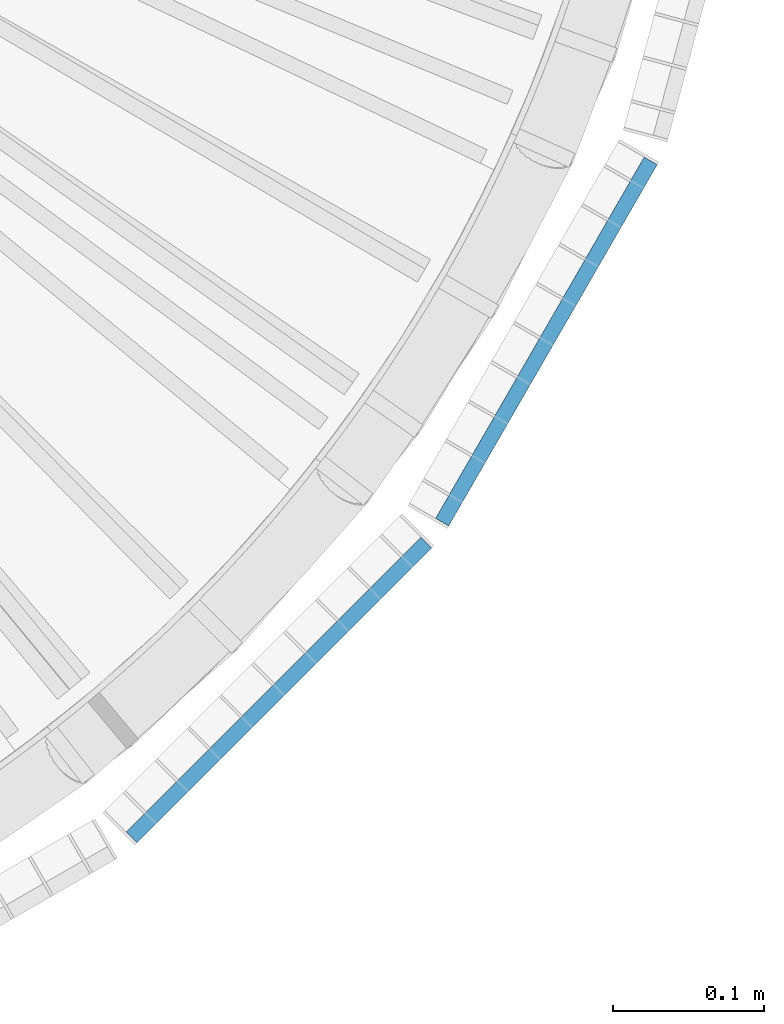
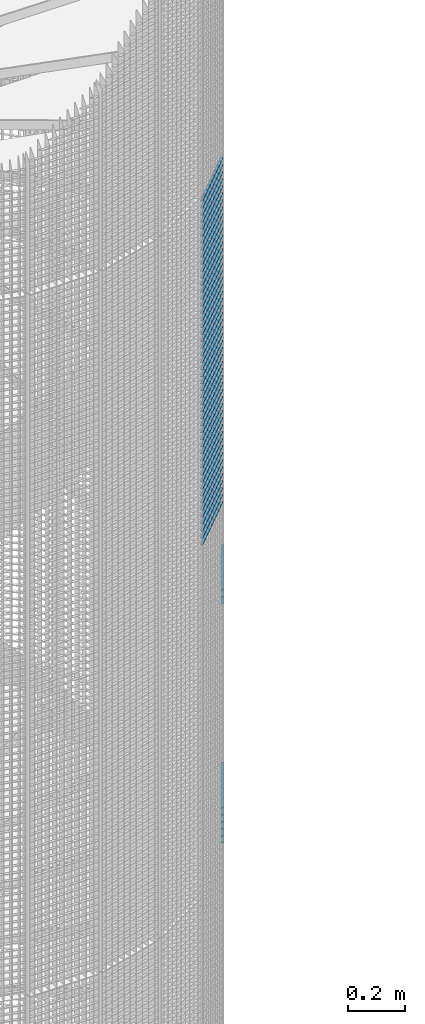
# One storey, part 260 of 1183: 59 beams, 2 elements without a shape of their own.
"""IFC2X3 building model written with IfcOpenShell, lengths in millimetres."""

import ifcopenshell
import ifcopenshell.guid

model = None  # the IFC model being written
_history = None  # IfcOwnerHistory: only IFC2X3 demands one
_inside = {}  # id of a spatial element -> (the spatial element, [elements in it])
_under = {}  # id of a project, library or spatial element -> (it, [spatial elements below it])
_declared = {}  # id of a project -> (the project, [libraries it declares])
_typed = {}  # id of a type object -> (the type object, [elements of that type])
_made_of = {}  # id of a material, layer set ... -> (it, [elements and type objects made of it])


def new_model(schema):
    """Start an empty IFC model of exactly this schema.

    Asked for "IFC4X3", IfcOpenShell would pick the latest addendum, in which some entities
    have other attributes; the version numbers below select the first issue.
    IFC2X3 requires an IfcOwnerHistory on every rooted entity: one is made here for all.
    """
    global model, _history
    if schema == "IFC4X3":
        model = ifcopenshell.file(schema_version=(4, 3, 0, 0))
    else:
        model = ifcopenshell.file(schema=schema)
    _inside.clear()
    _under.clear()
    _declared.clear()
    _typed.clear()
    _made_of.clear()
    _history = None
    if model.schema == "IFC2X3":
        org = make("IfcOrganization", Name="unknown")
        user = make(
            "IfcPersonAndOrganization",
            ThePerson=make("IfcPerson", FamilyName="unknown"),
            TheOrganization=org,
        )
        app = make(
            "IfcApplication",
            ApplicationDeveloper=org,
            Version="unknown",
            ApplicationFullName="unknown",
            ApplicationIdentifier="unknown",
        )
        _history = make(
            "IfcOwnerHistory",
            OwningUser=user,
            OwningApplication=app,
            ChangeAction="ADDED",
            CreationDate=0,
        )
    return model


def make(cls, **values):
    """One entity of the class cls with the attributes given. An attribute that is None is left unset."""
    return model.create_entity(
        cls, **{name: value for name, value in values.items() if value is not None}
    )


def rooted(cls, **values):
    """An entity with a GlobalId (a new one), such as an element, a storey or a relation."""
    return make(cls, GlobalId=ifcopenshell.guid.new(), OwnerHistory=_history, **values)


def si_unit(unit_type, name, prefix=None):
    """IfcSIUnit, for example si_unit("LENGTHUNIT", "METRE", prefix="MILLI")."""
    return make("IfcSIUnit", UnitType=unit_type, Prefix=prefix, Name=name)


def assignment(units):
    """IfcUnitAssignment: the units of a project."""
    return None if units is None else make("IfcUnitAssignment", Units=units)


def point(xyz):
    """IfcCartesianPoint."""
    return None if xyz is None else make("IfcCartesianPoint", Coordinates=xyz)


def direction(xyz):
    """IfcDirection."""
    return None if xyz is None else make("IfcDirection", DirectionRatios=xyz)


def frame(location, z_axis=None, x_axis=None):
    """IfcAxis2Placement3D, a coordinate frame: its origin and axes. An axis left out is left unset."""
    return make(
        "IfcAxis2Placement3D",
        Location=point(location),
        Axis=direction(z_axis),
        RefDirection=direction(x_axis),
    )


def frame_2d(location, x_axis=None):
    """IfcAxis2Placement2D, a coordinate frame in the plane: its origin and x axis."""
    return make(
        "IfcAxis2Placement2D", Location=point(location), RefDirection=direction(x_axis)
    )


def origin_with_axes():
    """The frame at (0, 0, 0) with the z axis (0, 0, 1) and the x axis (1, 0, 0) written out."""
    return frame((0.0, 0.0, 0.0), z_axis=(0.0, 0.0, 1.0), x_axis=(1.0, 0.0, 0.0))


def origin_2d_with_axis():
    """The frame at (0, 0) in the plane with the x axis (1, 0) written out."""
    return frame_2d((0.0, 0.0), x_axis=(1.0, 0.0))


def place(relative_to, where):
    """IfcLocalPlacement: puts the frame where relative to a parent placement (None: the world)."""
    return make(
        "IfcLocalPlacement", PlacementRelTo=relative_to, RelativePlacement=where
    )


def context(
    kind, dimensions, precision=None, world=None, true_north=None, identifier=None
):
    """IfcGeometricRepresentationContext, for example the 3D "Model" context."""
    return make(
        "IfcGeometricRepresentationContext",
        ContextIdentifier=identifier,
        ContextType=kind,
        CoordinateSpaceDimension=dimensions,
        Precision=precision,
        WorldCoordinateSystem=world,
        TrueNorth=true_north,
    )


def subcontext(parent, identifier, kind, view, scale=None):
    """IfcGeometricRepresentationSubContext, for example "Body" below "Model"."""
    return make(
        "IfcGeometricRepresentationSubContext",
        ContextIdentifier=identifier,
        ContextType=kind,
        ParentContext=parent,
        TargetScale=scale,
        TargetView=view,
    )


def project(units=None, contexts=None):
    """IfcProject with its units and contexts."""
    return rooted(
        "IfcProject",
        Name="project",
        RepresentationContexts=contexts,
        UnitsInContext=assignment(units),
    )


def spatial(cls, under=None, at=None, **own):
    """A site, building, storey or space (cls), placed at a placement, below another one or the project."""
    s = rooted(cls, ObjectPlacement=at, **own)
    if under is not None:
        _under.setdefault(under.id(), (under, []))[1].append(s)
    return s


def profile(cls, at=None, kind="AREA", **sizes):
    """A parametric profile (cls). Its sizes go by their IFC names, for example OverallWidth=200.0."""
    return make(cls, ProfileType=kind, Position=at, **sizes)


def rectangle(**sizes):
    """IfcRectangleProfileDef."""
    return profile("IfcRectangleProfileDef", **sizes)


def extrude(swept, where, along, depth):
    """IfcExtrudedAreaSolid: the profile swept, set in the frame where, extruded along a direction by depth."""
    return make(
        "IfcExtrudedAreaSolid",
        SweptArea=swept,
        Position=where,
        ExtrudedDirection=direction(along),
        Depth=depth,
    )


def shape(context_of_items, identifier, shape_type, items):
    """IfcShapeRepresentation: the items that make up one representation, for example the "Body"."""
    return make(
        "IfcShapeRepresentation",
        ContextOfItems=context_of_items,
        RepresentationIdentifier=identifier,
        RepresentationType=shape_type,
        Items=items,
    )


def material(Name=None, Category=None):
    """IfcMaterial."""
    return make("IfcMaterial", Name=Name, Category=Category)


def made_of(thing, what):
    """Note that an element or type object is made of a material, layer set ...; save() writes the relation."""
    if what is not None:
        _made_of.setdefault(what.id(), (what, []))[1].append(thing)
    return thing


def type_object(cls, material=None, **own):
    """A type object (cls), such as IfcWallType, which elements share."""
    return made_of(rooted(cls, **own), material)


def element(
    cls,
    number,
    at=None,
    inside=None,
    cuts=None,
    type_object=None,
    material=None,
    context=None,
    identifier="Body",
    shape_type=None,
    held_by="IfcProductDefinitionShape",
    body=None,
    shapes=None,
    **own,
):
    """One element of the class cls, such as IfcWall. Its Tag is "e" and its number.

    at: its placement. inside: the storey or other place that contains it. cuts: it is an
    opening in that element (IfcRelVoidsElement). A single representation is given by context,
    identifier, shape_type and body (its items); several are given by shapes. held_by: the class
    of the entity that holds the representations. save() writes the other relations.
    """
    e = rooted(cls, Tag="e%d" % number, ObjectPlacement=at, **own)
    if body is not None:
        shapes = [shape(context, identifier, shape_type, body)]
    if shapes is not None:
        e.Representation = make(held_by, Representations=shapes)
    if inside is not None:
        _inside.setdefault(inside.id(), (inside, []))[1].append(e)
    if cuts is not None:
        rooted(
            "IfcRelVoidsElement", RelatingBuildingElement=cuts, RelatedOpeningElement=e
        )
    if type_object is not None:
        _typed.setdefault(type_object.id(), (type_object, []))[1].append(e)
    return made_of(e, material)


def aggregate(whole, parts):
    """IfcRelAggregates: a whole, such as a stair, and the parts it consists of."""
    return rooted("IfcRelAggregates", RelatingObject=whole, RelatedObjects=parts)


def save(model, path):
    """Write the relations noted so far, then the file.

    IfcRelAggregates (storeys below a building ...), IfcRelContainedInSpatialStructure (elements
    in a storey), IfcRelDefinesByType, IfcRelAssociatesMaterial and IfcRelDeclares: one each for
    every whole, place, type object, material and project.
    """
    for whole, parts in _under.values():
        aggregate(whole, parts)
    for where, things in _inside.values():
        rooted(
            "IfcRelContainedInSpatialStructure",
            RelatedElements=things,
            RelatingStructure=where,
        )
    for kind, things in _typed.values():
        rooted("IfcRelDefinesByType", RelatedObjects=things, RelatingType=kind)
    for what, things in _made_of.values():
        rooted("IfcRelAssociatesMaterial", RelatedObjects=things, RelatingMaterial=what)
    for by, libraries in _declared.values():
        rooted("IfcRelDeclares", RelatingContext=by, RelatedDefinitions=libraries)
    model.write(path)


model = new_model("IFC2X3")

# Units and contexts
model_context = context("Model", 3, precision=1e-05, world=origin_with_axes())
body_context = subcontext(model_context, "Body", "Model", "MODEL_VIEW")
ifc_project = project(units=[si_unit("LENGTHUNIT", "METRE", prefix="MILLI"), si_unit("AREAUNIT", "SQUARE_METRE"), si_unit("VOLUMEUNIT", "CUBIC_METRE"), si_unit("MASSUNIT", "GRAM", prefix="KILO"), si_unit("TIMEUNIT", "SECOND"), si_unit("PLANEANGLEUNIT", "RADIAN"), si_unit("SOLIDANGLEUNIT", "STERADIAN"), si_unit("THERMODYNAMICTEMPERATUREUNIT", "DEGREE_CELSIUS"), si_unit("LUMINOUSINTENSITYUNIT", "LUMEN")], contexts=[model_context])

# Site, building, storey
site_placement = place(None, origin_with_axes())
site = spatial("IfcSite", under=ifc_project, at=site_placement, Name="Undefined", CompositionType="ELEMENT")
building_placement = place(site_placement, origin_with_axes())
building = spatial("IfcBuilding", under=site, at=building_placement, Name="Undefined", CompositionType="ELEMENT")
storey_placement = place(building_placement, origin_with_axes())
storey = spatial("IfcBuildingStorey", under=building, at=storey_placement, Name="Undefined", CompositionType="ELEMENT", Elevation=0.0)

# Assembly, beams
assembly_1_placement = place(storey_placement, origin_with_axes())
assembly_1 = element("IfcElementAssembly", 1, at=assembly_1_placement, inside=storey, Name="BORDURE", AssemblyPlace="NOTDEFINED", PredefinedType="NOTDEFINED")
ifc_material = material(Name="STEEL/S235JR")
beam_type = type_object("IfcBeamType", Name="PL2*10", PredefinedType="NOTDEFINED")
beam_1_placement = place(assembly_1_placement, frame((895.30396491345, -676.24804453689, 3180.0), z_axis=(0.866025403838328, -0.49999999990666, 0.0), x_axis=(0.49999999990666, 0.866025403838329, 0.0)))
beam_1 = element("IfcBeam", 2, at=beam_1_placement, type_object=beam_type, material=ifc_material, Name="ENTRETOISE", context=body_context, shape_type="SweptSolid", body=[
    extrude(rectangle(XDim=2.0, YDim=10.0, at=origin_2d_with_axis()), frame((275.999999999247, 9.09494701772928e-13, 1.53210777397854e-14), z_axis=(-1.0, 0.0, 0.0), x_axis=(0.0, -1.0, 0.0)), (0.0, 0.0, 1.0), 276.0),
])
beam_2_placement = place(assembly_1_placement, frame((895.303964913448, -676.248044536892, 4050.0), z_axis=(0.866025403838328, -0.49999999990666, 0.0), x_axis=(0.49999999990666, 0.866025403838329, 0.0)))
beam_2 = element("IfcBeam", 3, at=beam_2_placement, type_object=beam_type, material=ifc_material, Name="ENTRETOISE", context=body_context, shape_type="SweptSolid", body=[
    extrude(rectangle(XDim=2.0, YDim=10.0, at=origin_2d_with_axis()), frame((275.999999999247, 9.09494701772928e-13, 1.53210777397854e-14), z_axis=(-1.0, 0.0, 0.0), x_axis=(0.0, -1.0, 0.0)), (0.0, 0.0, 1.0), 276.0),
])
beam_3_placement = place(assembly_1_placement, frame((895.30396491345, -676.24804453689, 3150.0), z_axis=(0.866025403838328, -0.49999999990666, 0.0), x_axis=(0.49999999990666, 0.866025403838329, 0.0)))
beam_3 = element("IfcBeam", 4, at=beam_3_placement, type_object=beam_type, material=ifc_material, Name="ENTRETOISE", context=body_context, shape_type="SweptSolid", body=[
    extrude(rectangle(XDim=2.0, YDim=10.0, at=origin_2d_with_axis()), frame((275.999999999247, 9.09494701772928e-13, 1.53210777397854e-14), z_axis=(-1.0, 0.0, 0.0), x_axis=(0.0, -1.0, 0.0)), (0.0, 0.0, 1.0), 276.0),
])
beam_4_placement = place(assembly_1_placement, frame((895.30396491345, -676.24804453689, 3120.0), z_axis=(0.866025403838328, -0.49999999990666, 0.0), x_axis=(0.49999999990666, 0.866025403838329, 0.0)))
beam_4 = element("IfcBeam", 5, at=beam_4_placement, type_object=beam_type, material=ifc_material, Name="ENTRETOISE", context=body_context, shape_type="SweptSolid", body=[
    extrude(rectangle(XDim=2.0, YDim=10.0, at=origin_2d_with_axis()), frame((275.999999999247, 9.09494701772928e-13, 1.53210777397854e-14), z_axis=(-1.0, 0.0, 0.0), x_axis=(0.0, -1.0, 0.0)), (0.0, 0.0, 1.0), 276.0),
])
beam_5_placement = place(assembly_1_placement, frame((895.303964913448, -676.248044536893, 4080.0), z_axis=(0.866025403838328, -0.49999999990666, 0.0), x_axis=(0.49999999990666, 0.866025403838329, 0.0)))
beam_5 = element("IfcBeam", 6, at=beam_5_placement, type_object=beam_type, material=ifc_material, Name="ENTRETOISE", context=body_context, shape_type="SweptSolid", body=[
    extrude(rectangle(XDim=2.0, YDim=10.0, at=origin_2d_with_axis()), frame((275.999999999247, 9.09494701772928e-13, 1.53210777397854e-14), z_axis=(-1.0, 0.0, 0.0), x_axis=(0.0, -1.0, 0.0)), (0.0, 0.0, 1.0), 276.0),
])
beam_6_placement = place(assembly_1_placement, frame((895.30396491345, -676.248044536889, 3090.0), z_axis=(0.866025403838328, -0.49999999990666, 0.0), x_axis=(0.49999999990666, 0.866025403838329, 0.0)))
beam_6 = element("IfcBeam", 7, at=beam_6_placement, type_object=beam_type, material=ifc_material, Name="ENTRETOISE", context=body_context, shape_type="SweptSolid", body=[
    extrude(rectangle(XDim=2.0, YDim=10.0, at=origin_2d_with_axis()), frame((275.999999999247, 9.09494701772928e-13, 1.53210777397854e-14), z_axis=(-1.0, 0.0, 0.0), x_axis=(0.0, -1.0, 0.0)), (0.0, 0.0, 1.0), 276.0),
])
beam_7_placement = place(assembly_1_placement, frame((895.30396491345, -676.248044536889, 3060.0), z_axis=(0.866025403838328, -0.49999999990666, 0.0), x_axis=(0.49999999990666, 0.866025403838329, 0.0)))
beam_7 = element("IfcBeam", 8, at=beam_7_placement, type_object=beam_type, material=ifc_material, Name="ENTRETOISE", context=body_context, shape_type="SweptSolid", body=[
    extrude(rectangle(XDim=2.0, YDim=10.0, at=origin_2d_with_axis()), frame((275.999999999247, 9.09494701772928e-13, 1.53210777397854e-14), z_axis=(-1.0, 0.0, 0.0), x_axis=(0.0, -1.0, 0.0)), (0.0, 0.0, 1.0), 276.0),
])
beam_8_placement = place(assembly_1_placement, frame((895.303964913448, -676.248044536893, 4110.0), z_axis=(0.866025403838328, -0.49999999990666, 0.0), x_axis=(0.49999999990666, 0.866025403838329, 0.0)))
beam_8 = element("IfcBeam", 9, at=beam_8_placement, type_object=beam_type, material=ifc_material, Name="ENTRETOISE", context=body_context, shape_type="SweptSolid", body=[
    extrude(rectangle(XDim=2.0, YDim=10.0, at=origin_2d_with_axis()), frame((275.999999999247, 9.09494701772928e-13, 1.53210777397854e-14), z_axis=(-1.0, 0.0, 0.0), x_axis=(0.0, -1.0, 0.0)), (0.0, 0.0, 1.0), 276.0),
])
beam_9_placement = place(assembly_1_placement, frame((895.30396491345, -676.248044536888, 3030.0), z_axis=(0.866025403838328, -0.49999999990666, 0.0), x_axis=(0.49999999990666, 0.866025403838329, 0.0)))
beam_9 = element("IfcBeam", 10, at=beam_9_placement, type_object=beam_type, material=ifc_material, Name="ENTRETOISE", context=body_context, shape_type="SweptSolid", body=[
    extrude(rectangle(XDim=2.0, YDim=10.0, at=origin_2d_with_axis()), frame((275.999999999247, 9.09494701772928e-13, 1.53210777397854e-14), z_axis=(-1.0, 0.0, 0.0), x_axis=(0.0, -1.0, 0.0)), (0.0, 0.0, 1.0), 276.0),
])
aggregate(assembly_1, [beam_1, beam_2, beam_3, beam_4, beam_5, beam_6, beam_7, beam_8, beam_9])

assembly_2_placement = place(storey_placement, origin_with_axes())
assembly_2 = element("IfcElementAssembly", 11, at=assembly_2_placement, inside=storey, Name="BORDURE", AssemblyPlace="NOTDEFINED", PredefinedType="NOTDEFINED")
beam_10_placement = place(assembly_2_placement, frame((689.771348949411, -884.927168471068, 5970.0), z_axis=(0.707106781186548, -0.707106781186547, 0.0), x_axis=(0.707106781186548, 0.707106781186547, 0.0)))
beam_10 = element("IfcBeam", 12, at=beam_10_placement, type_object=beam_type, material=ifc_material, Name="ENTRETOISE", context=body_context, shape_type="SweptSolid", body=[
    extrude(rectangle(XDim=2.0, YDim=10.0, at=origin_2d_with_axis()), frame((275.999999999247, 9.09494701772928e-13, 1.53210777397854e-14), z_axis=(-1.0, 0.0, 0.0), x_axis=(0.0, -1.0, 0.0)), (0.0, 0.0, 1.0), 276.0),
])
beam_11_placement = place(assembly_2_placement, frame((689.771348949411, -884.927168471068, 5940.0), z_axis=(0.707106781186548, -0.707106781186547, 0.0), x_axis=(0.707106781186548, 0.707106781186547, 0.0)))
beam_11 = element("IfcBeam", 13, at=beam_11_placement, type_object=beam_type, material=ifc_material, Name="ENTRETOISE", context=body_context, shape_type="SweptSolid", body=[
    extrude(rectangle(XDim=2.0, YDim=10.0, at=origin_2d_with_axis()), frame((275.999999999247, 9.09494701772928e-13, 1.53210777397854e-14), z_axis=(-1.0, 0.0, 0.0), x_axis=(0.0, -1.0, 0.0)), (0.0, 0.0, 1.0), 276.0),
])
beam_12_placement = place(assembly_2_placement, frame((689.771348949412, -884.927168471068, 5910.0), z_axis=(0.707106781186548, -0.707106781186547, 0.0), x_axis=(0.707106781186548, 0.707106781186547, 0.0)))
beam_12 = element("IfcBeam", 14, at=beam_12_placement, type_object=beam_type, material=ifc_material, Name="ENTRETOISE", context=body_context, shape_type="SweptSolid", body=[
    extrude(rectangle(XDim=2.0, YDim=10.0, at=origin_2d_with_axis()), frame((275.999999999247, 9.09494701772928e-13, 1.53210777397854e-14), z_axis=(-1.0, 0.0, 0.0), x_axis=(0.0, -1.0, 0.0)), (0.0, 0.0, 1.0), 276.0),
])
beam_13_placement = place(assembly_2_placement, frame((689.771348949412, -884.927168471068, 5880.0), z_axis=(0.707106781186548, -0.707106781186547, 0.0), x_axis=(0.707106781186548, 0.707106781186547, 0.0)))
beam_13 = element("IfcBeam", 15, at=beam_13_placement, type_object=beam_type, material=ifc_material, Name="ENTRETOISE", context=body_context, shape_type="SweptSolid", body=[
    extrude(rectangle(XDim=2.0, YDim=10.0, at=origin_2d_with_axis()), frame((275.999999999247, 9.09494701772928e-13, 1.53210777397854e-14), z_axis=(-1.0, 0.0, 0.0), x_axis=(0.0, -1.0, 0.0)), (0.0, 0.0, 1.0), 276.0),
])
beam_14_placement = place(assembly_2_placement, frame((689.771348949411, -884.927168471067, 5850.0), z_axis=(0.707106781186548, -0.707106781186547, 0.0), x_axis=(0.707106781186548, 0.707106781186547, 0.0)))
beam_14 = element("IfcBeam", 16, at=beam_14_placement, type_object=beam_type, material=ifc_material, Name="ENTRETOISE", context=body_context, shape_type="SweptSolid", body=[
    extrude(rectangle(XDim=2.0, YDim=10.0, at=origin_2d_with_axis()), frame((275.999999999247, 9.09494701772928e-13, 1.53210777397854e-14), z_axis=(-1.0, 0.0, 0.0), x_axis=(0.0, -1.0, 0.0)), (0.0, 0.0, 1.0), 276.0),
])
beam_15_placement = place(assembly_2_placement, frame((689.771348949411, -884.927168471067, 5820.0), z_axis=(0.707106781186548, -0.707106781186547, 0.0), x_axis=(0.707106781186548, 0.707106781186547, 0.0)))
beam_15 = element("IfcBeam", 17, at=beam_15_placement, type_object=beam_type, material=ifc_material, Name="ENTRETOISE", context=body_context, shape_type="SweptSolid", body=[
    extrude(rectangle(XDim=2.0, YDim=10.0, at=origin_2d_with_axis()), frame((275.999999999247, 9.09494701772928e-13, 1.53210777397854e-14), z_axis=(-1.0, 0.0, 0.0), x_axis=(0.0, -1.0, 0.0)), (0.0, 0.0, 1.0), 276.0),
])
beam_16_placement = place(assembly_2_placement, frame((689.771348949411, -884.927168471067, 5790.0), z_axis=(0.707106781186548, -0.707106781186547, 0.0), x_axis=(0.707106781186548, 0.707106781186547, 0.0)))
beam_16 = element("IfcBeam", 18, at=beam_16_placement, type_object=beam_type, material=ifc_material, Name="ENTRETOISE", context=body_context, shape_type="SweptSolid", body=[
    extrude(rectangle(XDim=2.0, YDim=10.0, at=origin_2d_with_axis()), frame((275.999999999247, 9.09494701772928e-13, 1.53210777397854e-14), z_axis=(-1.0, 0.0, 0.0), x_axis=(0.0, -1.0, 0.0)), (0.0, 0.0, 1.0), 276.0),
])
beam_17_placement = place(assembly_2_placement, frame((689.771348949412, -884.927168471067, 5760.0), z_axis=(0.707106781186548, -0.707106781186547, 0.0), x_axis=(0.707106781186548, 0.707106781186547, 0.0)))
beam_17 = element("IfcBeam", 19, at=beam_17_placement, type_object=beam_type, material=ifc_material, Name="ENTRETOISE", context=body_context, shape_type="SweptSolid", body=[
    extrude(rectangle(XDim=2.0, YDim=10.0, at=origin_2d_with_axis()), frame((275.999999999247, 9.09494701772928e-13, 1.53210777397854e-14), z_axis=(-1.0, 0.0, 0.0), x_axis=(0.0, -1.0, 0.0)), (0.0, 0.0, 1.0), 276.0),
])
beam_18_placement = place(assembly_2_placement, frame((689.771348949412, -884.927168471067, 5730.0), z_axis=(0.707106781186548, -0.707106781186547, 0.0), x_axis=(0.707106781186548, 0.707106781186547, 0.0)))
beam_18 = element("IfcBeam", 20, at=beam_18_placement, type_object=beam_type, material=ifc_material, Name="ENTRETOISE", context=body_context, shape_type="SweptSolid", body=[
    extrude(rectangle(XDim=2.0, YDim=10.0, at=origin_2d_with_axis()), frame((275.999999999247, 9.09494701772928e-13, 1.53210777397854e-14), z_axis=(-1.0, 0.0, 0.0), x_axis=(0.0, -1.0, 0.0)), (0.0, 0.0, 1.0), 276.0),
])
beam_19_placement = place(assembly_2_placement, frame((689.771348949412, -884.927168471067, 5700.0), z_axis=(0.707106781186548, -0.707106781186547, 0.0), x_axis=(0.707106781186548, 0.707106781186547, 0.0)))
beam_19 = element("IfcBeam", 21, at=beam_19_placement, type_object=beam_type, material=ifc_material, Name="ENTRETOISE", context=body_context, shape_type="SweptSolid", body=[
    extrude(rectangle(XDim=2.0, YDim=10.0, at=origin_2d_with_axis()), frame((275.999999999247, 9.09494701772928e-13, 1.53210777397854e-14), z_axis=(-1.0, 0.0, 0.0), x_axis=(0.0, -1.0, 0.0)), (0.0, 0.0, 1.0), 276.0),
])
beam_20_placement = place(assembly_2_placement, frame((689.771348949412, -884.927168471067, 5670.0), z_axis=(0.707106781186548, -0.707106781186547, 0.0), x_axis=(0.707106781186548, 0.707106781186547, 0.0)))
beam_20 = element("IfcBeam", 22, at=beam_20_placement, type_object=beam_type, material=ifc_material, Name="ENTRETOISE", context=body_context, shape_type="SweptSolid", body=[
    extrude(rectangle(XDim=2.0, YDim=10.0, at=origin_2d_with_axis()), frame((275.999999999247, 9.09494701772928e-13, 1.53210777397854e-14), z_axis=(-1.0, 0.0, 0.0), x_axis=(0.0, -1.0, 0.0)), (0.0, 0.0, 1.0), 276.0),
])
beam_21_placement = place(assembly_2_placement, frame((689.771348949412, -884.927168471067, 5640.0), z_axis=(0.707106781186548, -0.707106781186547, 0.0), x_axis=(0.707106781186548, 0.707106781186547, 0.0)))
beam_21 = element("IfcBeam", 23, at=beam_21_placement, type_object=beam_type, material=ifc_material, Name="ENTRETOISE", context=body_context, shape_type="SweptSolid", body=[
    extrude(rectangle(XDim=2.0, YDim=10.0, at=origin_2d_with_axis()), frame((275.999999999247, 9.09494701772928e-13, 1.53210777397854e-14), z_axis=(-1.0, 0.0, 0.0), x_axis=(0.0, -1.0, 0.0)), (0.0, 0.0, 1.0), 276.0),
])
beam_22_placement = place(assembly_2_placement, frame((689.771348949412, -884.927168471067, 5610.0), z_axis=(0.707106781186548, -0.707106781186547, 0.0), x_axis=(0.707106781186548, 0.707106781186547, 0.0)))
beam_22 = element("IfcBeam", 24, at=beam_22_placement, type_object=beam_type, material=ifc_material, Name="ENTRETOISE", context=body_context, shape_type="SweptSolid", body=[
    extrude(rectangle(XDim=2.0, YDim=10.0, at=origin_2d_with_axis()), frame((275.999999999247, 9.09494701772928e-13, 1.53210777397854e-14), z_axis=(-1.0, 0.0, 0.0), x_axis=(0.0, -1.0, 0.0)), (0.0, 0.0, 1.0), 276.0),
])
beam_23_placement = place(assembly_2_placement, frame((689.771348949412, -884.927168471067, 5580.0), z_axis=(0.707106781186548, -0.707106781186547, 0.0), x_axis=(0.707106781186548, 0.707106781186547, 0.0)))
beam_23 = element("IfcBeam", 25, at=beam_23_placement, type_object=beam_type, material=ifc_material, Name="ENTRETOISE", context=body_context, shape_type="SweptSolid", body=[
    extrude(rectangle(XDim=2.0, YDim=10.0, at=origin_2d_with_axis()), frame((275.999999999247, 9.09494701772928e-13, 1.53210777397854e-14), z_axis=(-1.0, 0.0, 0.0), x_axis=(0.0, -1.0, 0.0)), (0.0, 0.0, 1.0), 276.0),
])
beam_24_placement = place(assembly_2_placement, frame((689.771348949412, -884.927168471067, 5550.0), z_axis=(0.707106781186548, -0.707106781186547, 0.0), x_axis=(0.707106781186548, 0.707106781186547, 0.0)))
beam_24 = element("IfcBeam", 26, at=beam_24_placement, type_object=beam_type, material=ifc_material, Name="ENTRETOISE", context=body_context, shape_type="SweptSolid", body=[
    extrude(rectangle(XDim=2.0, YDim=10.0, at=origin_2d_with_axis()), frame((275.999999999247, 9.09494701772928e-13, 1.53210777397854e-14), z_axis=(-1.0, 0.0, 0.0), x_axis=(0.0, -1.0, 0.0)), (0.0, 0.0, 1.0), 276.0),
])
beam_25_placement = place(assembly_2_placement, frame((689.771348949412, -884.927168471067, 5520.0), z_axis=(0.707106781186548, -0.707106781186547, 0.0), x_axis=(0.707106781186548, 0.707106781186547, 0.0)))
beam_25 = element("IfcBeam", 27, at=beam_25_placement, type_object=beam_type, material=ifc_material, Name="ENTRETOISE", context=body_context, shape_type="SweptSolid", body=[
    extrude(rectangle(XDim=2.0, YDim=10.0, at=origin_2d_with_axis()), frame((275.999999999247, 9.09494701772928e-13, 1.53210777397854e-14), z_axis=(-1.0, 0.0, 0.0), x_axis=(0.0, -1.0, 0.0)), (0.0, 0.0, 1.0), 276.0),
])
beam_26_placement = place(assembly_2_placement, frame((689.771348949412, -884.927168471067, 5490.0), z_axis=(0.707106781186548, -0.707106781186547, 0.0), x_axis=(0.707106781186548, 0.707106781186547, 0.0)))
beam_26 = element("IfcBeam", 28, at=beam_26_placement, type_object=beam_type, material=ifc_material, Name="ENTRETOISE", context=body_context, shape_type="SweptSolid", body=[
    extrude(rectangle(XDim=2.0, YDim=10.0, at=origin_2d_with_axis()), frame((275.999999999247, 9.09494701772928e-13, 1.53210777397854e-14), z_axis=(-1.0, 0.0, 0.0), x_axis=(0.0, -1.0, 0.0)), (0.0, 0.0, 1.0), 276.0),
])
beam_27_placement = place(assembly_2_placement, frame((689.771348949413, -884.927168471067, 5460.0), z_axis=(0.707106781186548, -0.707106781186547, 0.0), x_axis=(0.707106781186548, 0.707106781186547, 0.0)))
beam_27 = element("IfcBeam", 29, at=beam_27_placement, type_object=beam_type, material=ifc_material, Name="ENTRETOISE", context=body_context, shape_type="SweptSolid", body=[
    extrude(rectangle(XDim=2.0, YDim=10.0, at=origin_2d_with_axis()), frame((275.999999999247, 9.09494701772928e-13, 1.53210777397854e-14), z_axis=(-1.0, 0.0, 0.0), x_axis=(0.0, -1.0, 0.0)), (0.0, 0.0, 1.0), 276.0),
])
beam_28_placement = place(assembly_2_placement, frame((689.771348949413, -884.927168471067, 5430.0), z_axis=(0.707106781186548, -0.707106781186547, 0.0), x_axis=(0.707106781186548, 0.707106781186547, 0.0)))
beam_28 = element("IfcBeam", 30, at=beam_28_placement, type_object=beam_type, material=ifc_material, Name="ENTRETOISE", context=body_context, shape_type="SweptSolid", body=[
    extrude(rectangle(XDim=2.0, YDim=10.0, at=origin_2d_with_axis()), frame((275.999999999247, 9.09494701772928e-13, 1.53210777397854e-14), z_axis=(-1.0, 0.0, 0.0), x_axis=(0.0, -1.0, 0.0)), (0.0, 0.0, 1.0), 276.0),
])
beam_29_placement = place(assembly_2_placement, frame((689.771348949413, -884.927168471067, 5400.0), z_axis=(0.707106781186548, -0.707106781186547, 0.0), x_axis=(0.707106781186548, 0.707106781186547, 0.0)))
beam_29 = element("IfcBeam", 31, at=beam_29_placement, type_object=beam_type, material=ifc_material, Name="ENTRETOISE", context=body_context, shape_type="SweptSolid", body=[
    extrude(rectangle(XDim=2.0, YDim=10.0, at=origin_2d_with_axis()), frame((275.999999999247, 9.09494701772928e-13, 1.53210777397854e-14), z_axis=(-1.0, 0.0, 0.0), x_axis=(0.0, -1.0, 0.0)), (0.0, 0.0, 1.0), 276.0),
])
beam_30_placement = place(assembly_2_placement, frame((689.771348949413, -884.927168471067, 5370.0), z_axis=(0.707106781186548, -0.707106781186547, 0.0), x_axis=(0.707106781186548, 0.707106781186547, 0.0)))
beam_30 = element("IfcBeam", 32, at=beam_30_placement, type_object=beam_type, material=ifc_material, Name="ENTRETOISE", context=body_context, shape_type="SweptSolid", body=[
    extrude(rectangle(XDim=2.0, YDim=10.0, at=origin_2d_with_axis()), frame((275.999999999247, 9.09494701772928e-13, 1.53210777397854e-14), z_axis=(-1.0, 0.0, 0.0), x_axis=(0.0, -1.0, 0.0)), (0.0, 0.0, 1.0), 276.0),
])
beam_31_placement = place(assembly_2_placement, frame((689.771348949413, -884.927168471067, 5340.0), z_axis=(0.707106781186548, -0.707106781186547, 0.0), x_axis=(0.707106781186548, 0.707106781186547, 0.0)))
beam_31 = element("IfcBeam", 33, at=beam_31_placement, type_object=beam_type, material=ifc_material, Name="ENTRETOISE", context=body_context, shape_type="SweptSolid", body=[
    extrude(rectangle(XDim=2.0, YDim=10.0, at=origin_2d_with_axis()), frame((275.999999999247, 9.09494701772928e-13, 1.53210777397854e-14), z_axis=(-1.0, 0.0, 0.0), x_axis=(0.0, -1.0, 0.0)), (0.0, 0.0, 1.0), 276.0),
])
beam_32_placement = place(assembly_2_placement, frame((689.771348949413, -884.927168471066, 5310.0), z_axis=(0.707106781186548, -0.707106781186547, 0.0), x_axis=(0.707106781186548, 0.707106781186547, 0.0)))
beam_32 = element("IfcBeam", 34, at=beam_32_placement, type_object=beam_type, material=ifc_material, Name="ENTRETOISE", context=body_context, shape_type="SweptSolid", body=[
    extrude(rectangle(XDim=2.0, YDim=10.0, at=origin_2d_with_axis()), frame((275.999999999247, 9.09494701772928e-13, 1.53210777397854e-14), z_axis=(-1.0, 0.0, 0.0), x_axis=(0.0, -1.0, 0.0)), (0.0, 0.0, 1.0), 276.0),
])
beam_33_placement = place(assembly_2_placement, frame((689.771348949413, -884.927168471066, 5280.0), z_axis=(0.707106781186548, -0.707106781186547, 0.0), x_axis=(0.707106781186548, 0.707106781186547, 0.0)))
beam_33 = element("IfcBeam", 35, at=beam_33_placement, type_object=beam_type, material=ifc_material, Name="ENTRETOISE", context=body_context, shape_type="SweptSolid", body=[
    extrude(rectangle(XDim=2.0, YDim=10.0, at=origin_2d_with_axis()), frame((275.999999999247, 9.09494701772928e-13, 1.53210777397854e-14), z_axis=(-1.0, 0.0, 0.0), x_axis=(0.0, -1.0, 0.0)), (0.0, 0.0, 1.0), 276.0),
])
beam_34_placement = place(assembly_2_placement, frame((689.771348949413, -884.927168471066, 5250.0), z_axis=(0.707106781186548, -0.707106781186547, 0.0), x_axis=(0.707106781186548, 0.707106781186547, 0.0)))
beam_34 = element("IfcBeam", 36, at=beam_34_placement, type_object=beam_type, material=ifc_material, Name="ENTRETOISE", context=body_context, shape_type="SweptSolid", body=[
    extrude(rectangle(XDim=2.0, YDim=10.0, at=origin_2d_with_axis()), frame((275.999999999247, 9.09494701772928e-13, 1.53210777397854e-14), z_axis=(-1.0, 0.0, 0.0), x_axis=(0.0, -1.0, 0.0)), (0.0, 0.0, 1.0), 276.0),
])
beam_35_placement = place(assembly_2_placement, frame((689.771348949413, -884.927168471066, 5220.0), z_axis=(0.707106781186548, -0.707106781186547, 0.0), x_axis=(0.707106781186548, 0.707106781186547, 0.0)))
beam_35 = element("IfcBeam", 37, at=beam_35_placement, type_object=beam_type, material=ifc_material, Name="ENTRETOISE", context=body_context, shape_type="SweptSolid", body=[
    extrude(rectangle(XDim=2.0, YDim=10.0, at=origin_2d_with_axis()), frame((275.999999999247, 9.09494701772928e-13, 1.53210777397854e-14), z_axis=(-1.0, 0.0, 0.0), x_axis=(0.0, -1.0, 0.0)), (0.0, 0.0, 1.0), 276.0),
])
beam_36_placement = place(assembly_2_placement, frame((689.771348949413, -884.927168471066, 5190.0), z_axis=(0.707106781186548, -0.707106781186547, 0.0), x_axis=(0.707106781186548, 0.707106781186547, 0.0)))
beam_36 = element("IfcBeam", 38, at=beam_36_placement, type_object=beam_type, material=ifc_material, Name="ENTRETOISE", context=body_context, shape_type="SweptSolid", body=[
    extrude(rectangle(XDim=2.0, YDim=10.0, at=origin_2d_with_axis()), frame((275.999999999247, 9.09494701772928e-13, 1.53210777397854e-14), z_axis=(-1.0, 0.0, 0.0), x_axis=(0.0, -1.0, 0.0)), (0.0, 0.0, 1.0), 276.0),
])
beam_37_placement = place(assembly_2_placement, frame((689.771348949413, -884.927168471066, 5160.0), z_axis=(0.707106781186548, -0.707106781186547, 0.0), x_axis=(0.707106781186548, 0.707106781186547, 0.0)))
beam_37 = element("IfcBeam", 39, at=beam_37_placement, type_object=beam_type, material=ifc_material, Name="ENTRETOISE", context=body_context, shape_type="SweptSolid", body=[
    extrude(rectangle(XDim=2.0, YDim=10.0, at=origin_2d_with_axis()), frame((275.999999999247, 9.09494701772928e-13, 1.53210777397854e-14), z_axis=(-1.0, 0.0, 0.0), x_axis=(0.0, -1.0, 0.0)), (0.0, 0.0, 1.0), 276.0),
])
beam_38_placement = place(assembly_2_placement, frame((689.771348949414, -884.927168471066, 5130.0), z_axis=(0.707106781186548, -0.707106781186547, 0.0), x_axis=(0.707106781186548, 0.707106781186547, 0.0)))
beam_38 = element("IfcBeam", 40, at=beam_38_placement, type_object=beam_type, material=ifc_material, Name="ENTRETOISE", context=body_context, shape_type="SweptSolid", body=[
    extrude(rectangle(XDim=2.0, YDim=10.0, at=origin_2d_with_axis()), frame((275.999999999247, 9.09494701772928e-13, 1.53210777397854e-14), z_axis=(-1.0, 0.0, 0.0), x_axis=(0.0, -1.0, 0.0)), (0.0, 0.0, 1.0), 276.0),
])
beam_39_placement = place(assembly_2_placement, frame((689.771348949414, -884.927168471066, 5100.0), z_axis=(0.707106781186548, -0.707106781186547, 0.0), x_axis=(0.707106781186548, 0.707106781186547, 0.0)))
beam_39 = element("IfcBeam", 41, at=beam_39_placement, type_object=beam_type, material=ifc_material, Name="ENTRETOISE", context=body_context, shape_type="SweptSolid", body=[
    extrude(rectangle(XDim=2.0, YDim=10.0, at=origin_2d_with_axis()), frame((275.999999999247, 9.09494701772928e-13, 1.53210777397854e-14), z_axis=(-1.0, 0.0, 0.0), x_axis=(0.0, -1.0, 0.0)), (0.0, 0.0, 1.0), 276.0),
])
beam_40_placement = place(assembly_2_placement, frame((689.771348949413, -884.927168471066, 5070.0), z_axis=(0.707106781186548, -0.707106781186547, 0.0), x_axis=(0.707106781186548, 0.707106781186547, 0.0)))
beam_40 = element("IfcBeam", 42, at=beam_40_placement, type_object=beam_type, material=ifc_material, Name="ENTRETOISE", context=body_context, shape_type="SweptSolid", body=[
    extrude(rectangle(XDim=2.0, YDim=10.0, at=origin_2d_with_axis()), frame((275.999999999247, 9.09494701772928e-13, 1.53210777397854e-14), z_axis=(-1.0, 0.0, 0.0), x_axis=(0.0, -1.0, 0.0)), (0.0, 0.0, 1.0), 276.0),
])
beam_41_placement = place(assembly_2_placement, frame((689.771348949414, -884.927168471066, 5040.0), z_axis=(0.707106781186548, -0.707106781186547, 0.0), x_axis=(0.707106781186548, 0.707106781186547, 0.0)))
beam_41 = element("IfcBeam", 43, at=beam_41_placement, type_object=beam_type, material=ifc_material, Name="ENTRETOISE", context=body_context, shape_type="SweptSolid", body=[
    extrude(rectangle(XDim=2.0, YDim=10.0, at=origin_2d_with_axis()), frame((275.999999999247, 9.09494701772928e-13, 1.53210777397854e-14), z_axis=(-1.0, 0.0, 0.0), x_axis=(0.0, -1.0, 0.0)), (0.0, 0.0, 1.0), 276.0),
])
beam_42_placement = place(assembly_2_placement, frame((689.771348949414, -884.927168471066, 5010.0), z_axis=(0.707106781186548, -0.707106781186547, 0.0), x_axis=(0.707106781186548, 0.707106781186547, 0.0)))
beam_42 = element("IfcBeam", 44, at=beam_42_placement, type_object=beam_type, material=ifc_material, Name="ENTRETOISE", context=body_context, shape_type="SweptSolid", body=[
    extrude(rectangle(XDim=2.0, YDim=10.0, at=origin_2d_with_axis()), frame((275.999999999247, 9.09494701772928e-13, 1.53210777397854e-14), z_axis=(-1.0, 0.0, 0.0), x_axis=(0.0, -1.0, 0.0)), (0.0, 0.0, 1.0), 276.0),
])
beam_43_placement = place(assembly_2_placement, frame((689.771348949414, -884.927168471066, 4980.0), z_axis=(0.707106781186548, -0.707106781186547, 0.0), x_axis=(0.707106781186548, 0.707106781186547, 0.0)))
beam_43 = element("IfcBeam", 45, at=beam_43_placement, type_object=beam_type, material=ifc_material, Name="ENTRETOISE", context=body_context, shape_type="SweptSolid", body=[
    extrude(rectangle(XDim=2.0, YDim=10.0, at=origin_2d_with_axis()), frame((275.999999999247, 9.09494701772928e-13, 1.53210777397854e-14), z_axis=(-1.0, 0.0, 0.0), x_axis=(0.0, -1.0, 0.0)), (0.0, 0.0, 1.0), 276.0),
])
beam_44_placement = place(assembly_2_placement, frame((689.771348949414, -884.927168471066, 4950.0), z_axis=(0.707106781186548, -0.707106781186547, 0.0), x_axis=(0.707106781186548, 0.707106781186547, 0.0)))
beam_44 = element("IfcBeam", 46, at=beam_44_placement, type_object=beam_type, material=ifc_material, Name="ENTRETOISE", context=body_context, shape_type="SweptSolid", body=[
    extrude(rectangle(XDim=2.0, YDim=10.0, at=origin_2d_with_axis()), frame((275.999999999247, 9.09494701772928e-13, 1.53210777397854e-14), z_axis=(-1.0, 0.0, 0.0), x_axis=(0.0, -1.0, 0.0)), (0.0, 0.0, 1.0), 276.0),
])
beam_45_placement = place(assembly_2_placement, frame((689.771348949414, -884.927168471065, 4920.0), z_axis=(0.707106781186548, -0.707106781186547, 0.0), x_axis=(0.707106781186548, 0.707106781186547, 0.0)))
beam_45 = element("IfcBeam", 47, at=beam_45_placement, type_object=beam_type, material=ifc_material, Name="ENTRETOISE", context=body_context, shape_type="SweptSolid", body=[
    extrude(rectangle(XDim=2.0, YDim=10.0, at=origin_2d_with_axis()), frame((275.999999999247, 9.09494701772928e-13, 1.53210777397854e-14), z_axis=(-1.0, 0.0, 0.0), x_axis=(0.0, -1.0, 0.0)), (0.0, 0.0, 1.0), 276.0),
])
beam_46_placement = place(assembly_2_placement, frame((689.771348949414, -884.927168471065, 4890.0), z_axis=(0.707106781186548, -0.707106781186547, 0.0), x_axis=(0.707106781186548, 0.707106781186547, 0.0)))
beam_46 = element("IfcBeam", 48, at=beam_46_placement, type_object=beam_type, material=ifc_material, Name="ENTRETOISE", context=body_context, shape_type="SweptSolid", body=[
    extrude(rectangle(XDim=2.0, YDim=10.0, at=origin_2d_with_axis()), frame((275.999999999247, 9.09494701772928e-13, 1.53210777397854e-14), z_axis=(-1.0, 0.0, 0.0), x_axis=(0.0, -1.0, 0.0)), (0.0, 0.0, 1.0), 276.0),
])
beam_47_placement = place(assembly_2_placement, frame((689.771348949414, -884.927168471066, 4860.0), z_axis=(0.707106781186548, -0.707106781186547, 0.0), x_axis=(0.707106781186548, 0.707106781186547, 0.0)))
beam_47 = element("IfcBeam", 49, at=beam_47_placement, type_object=beam_type, material=ifc_material, Name="ENTRETOISE", context=body_context, shape_type="SweptSolid", body=[
    extrude(rectangle(XDim=2.0, YDim=10.0, at=origin_2d_with_axis()), frame((275.999999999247, 9.09494701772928e-13, 1.53210777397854e-14), z_axis=(-1.0, 0.0, 0.0), x_axis=(0.0, -1.0, 0.0)), (0.0, 0.0, 1.0), 276.0),
])
beam_48_placement = place(assembly_2_placement, frame((689.771348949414, -884.927168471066, 4830.0), z_axis=(0.707106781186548, -0.707106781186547, 0.0), x_axis=(0.707106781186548, 0.707106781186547, 0.0)))
beam_48 = element("IfcBeam", 50, at=beam_48_placement, type_object=beam_type, material=ifc_material, Name="ENTRETOISE", context=body_context, shape_type="SweptSolid", body=[
    extrude(rectangle(XDim=2.0, YDim=10.0, at=origin_2d_with_axis()), frame((275.999999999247, 9.09494701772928e-13, 1.53210777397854e-14), z_axis=(-1.0, 0.0, 0.0), x_axis=(0.0, -1.0, 0.0)), (0.0, 0.0, 1.0), 276.0),
])
beam_49_placement = place(assembly_2_placement, frame((689.771348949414, -884.927168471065, 4800.0), z_axis=(0.707106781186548, -0.707106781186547, 0.0), x_axis=(0.707106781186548, 0.707106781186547, 0.0)))
beam_49 = element("IfcBeam", 51, at=beam_49_placement, type_object=beam_type, material=ifc_material, Name="ENTRETOISE", context=body_context, shape_type="SweptSolid", body=[
    extrude(rectangle(XDim=2.0, YDim=10.0, at=origin_2d_with_axis()), frame((275.999999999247, 9.09494701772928e-13, 1.53210777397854e-14), z_axis=(-1.0, 0.0, 0.0), x_axis=(0.0, -1.0, 0.0)), (0.0, 0.0, 1.0), 276.0),
])
beam_50_placement = place(assembly_2_placement, frame((689.771348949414, -884.927168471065, 4770.0), z_axis=(0.707106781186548, -0.707106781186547, 0.0), x_axis=(0.707106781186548, 0.707106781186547, 0.0)))
beam_50 = element("IfcBeam", 52, at=beam_50_placement, type_object=beam_type, material=ifc_material, Name="ENTRETOISE", context=body_context, shape_type="SweptSolid", body=[
    extrude(rectangle(XDim=2.0, YDim=10.0, at=origin_2d_with_axis()), frame((275.999999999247, 9.09494701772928e-13, 1.53210777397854e-14), z_axis=(-1.0, 0.0, 0.0), x_axis=(0.0, -1.0, 0.0)), (0.0, 0.0, 1.0), 276.0),
])
beam_51_placement = place(assembly_2_placement, frame((689.771348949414, -884.927168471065, 4740.0), z_axis=(0.707106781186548, -0.707106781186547, 0.0), x_axis=(0.707106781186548, 0.707106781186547, 0.0)))
beam_51 = element("IfcBeam", 53, at=beam_51_placement, type_object=beam_type, material=ifc_material, Name="ENTRETOISE", context=body_context, shape_type="SweptSolid", body=[
    extrude(rectangle(XDim=2.0, YDim=10.0, at=origin_2d_with_axis()), frame((275.999999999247, 9.09494701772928e-13, 1.53210777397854e-14), z_axis=(-1.0, 0.0, 0.0), x_axis=(0.0, -1.0, 0.0)), (0.0, 0.0, 1.0), 276.0),
])
beam_52_placement = place(assembly_2_placement, frame((689.771348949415, -884.927168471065, 4710.0), z_axis=(0.707106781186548, -0.707106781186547, 0.0), x_axis=(0.707106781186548, 0.707106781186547, 0.0)))
beam_52 = element("IfcBeam", 54, at=beam_52_placement, type_object=beam_type, material=ifc_material, Name="ENTRETOISE", context=body_context, shape_type="SweptSolid", body=[
    extrude(rectangle(XDim=2.0, YDim=10.0, at=origin_2d_with_axis()), frame((275.999999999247, 9.09494701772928e-13, 1.53210777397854e-14), z_axis=(-1.0, 0.0, 0.0), x_axis=(0.0, -1.0, 0.0)), (0.0, 0.0, 1.0), 276.0),
])
beam_53_placement = place(assembly_2_placement, frame((689.771348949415, -884.927168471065, 4680.0), z_axis=(0.707106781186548, -0.707106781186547, 0.0), x_axis=(0.707106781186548, 0.707106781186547, 0.0)))
beam_53 = element("IfcBeam", 55, at=beam_53_placement, type_object=beam_type, material=ifc_material, Name="ENTRETOISE", context=body_context, shape_type="SweptSolid", body=[
    extrude(rectangle(XDim=2.0, YDim=10.0, at=origin_2d_with_axis()), frame((275.999999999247, 9.09494701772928e-13, 1.53210777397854e-14), z_axis=(-1.0, 0.0, 0.0), x_axis=(0.0, -1.0, 0.0)), (0.0, 0.0, 1.0), 276.0),
])
beam_54_placement = place(assembly_2_placement, frame((689.771348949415, -884.927168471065, 4650.0), z_axis=(0.707106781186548, -0.707106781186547, 0.0), x_axis=(0.707106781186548, 0.707106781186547, 0.0)))
beam_54 = element("IfcBeam", 56, at=beam_54_placement, type_object=beam_type, material=ifc_material, Name="ENTRETOISE", context=body_context, shape_type="SweptSolid", body=[
    extrude(rectangle(XDim=2.0, YDim=10.0, at=origin_2d_with_axis()), frame((275.999999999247, 9.09494701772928e-13, 1.53210777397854e-14), z_axis=(-1.0, 0.0, 0.0), x_axis=(0.0, -1.0, 0.0)), (0.0, 0.0, 1.0), 276.0),
])
beam_55_placement = place(assembly_2_placement, frame((689.771348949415, -884.927168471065, 4620.0), z_axis=(0.707106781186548, -0.707106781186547, 0.0), x_axis=(0.707106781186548, 0.707106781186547, 0.0)))
beam_55 = element("IfcBeam", 57, at=beam_55_placement, type_object=beam_type, material=ifc_material, Name="ENTRETOISE", context=body_context, shape_type="SweptSolid", body=[
    extrude(rectangle(XDim=2.0, YDim=10.0, at=origin_2d_with_axis()), frame((275.999999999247, 9.09494701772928e-13, 1.53210777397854e-14), z_axis=(-1.0, 0.0, 0.0), x_axis=(0.0, -1.0, 0.0)), (0.0, 0.0, 1.0), 276.0),
])
beam_56_placement = place(assembly_2_placement, frame((689.771348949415, -884.927168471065, 4590.0), z_axis=(0.707106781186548, -0.707106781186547, 0.0), x_axis=(0.707106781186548, 0.707106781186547, 0.0)))
beam_56 = element("IfcBeam", 58, at=beam_56_placement, type_object=beam_type, material=ifc_material, Name="ENTRETOISE", context=body_context, shape_type="SweptSolid", body=[
    extrude(rectangle(XDim=2.0, YDim=10.0, at=origin_2d_with_axis()), frame((275.999999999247, 9.09494701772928e-13, 1.53210777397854e-14), z_axis=(-1.0, 0.0, 0.0), x_axis=(0.0, -1.0, 0.0)), (0.0, 0.0, 1.0), 276.0),
])
beam_57_placement = place(assembly_2_placement, frame((689.771348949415, -884.927168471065, 4560.0), z_axis=(0.707106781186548, -0.707106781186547, 0.0), x_axis=(0.707106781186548, 0.707106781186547, 0.0)))
beam_57 = element("IfcBeam", 59, at=beam_57_placement, type_object=beam_type, material=ifc_material, Name="ENTRETOISE", context=body_context, shape_type="SweptSolid", body=[
    extrude(rectangle(XDim=2.0, YDim=10.0, at=origin_2d_with_axis()), frame((275.999999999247, 9.09494701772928e-13, 1.53210777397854e-14), z_axis=(-1.0, 0.0, 0.0), x_axis=(0.0, -1.0, 0.0)), (0.0, 0.0, 1.0), 276.0),
])
beam_58_placement = place(assembly_2_placement, frame((689.771348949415, -884.927168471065, 4530.0), z_axis=(0.707106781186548, -0.707106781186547, 0.0), x_axis=(0.707106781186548, 0.707106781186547, 0.0)))
beam_58 = element("IfcBeam", 60, at=beam_58_placement, type_object=beam_type, material=ifc_material, Name="ENTRETOISE", context=body_context, shape_type="SweptSolid", body=[
    extrude(rectangle(XDim=2.0, YDim=10.0, at=origin_2d_with_axis()), frame((275.999999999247, 9.09494701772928e-13, 1.53210777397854e-14), z_axis=(-1.0, 0.0, 0.0), x_axis=(0.0, -1.0, 0.0)), (0.0, 0.0, 1.0), 276.0),
])
beam_59_placement = place(assembly_2_placement, frame((689.771348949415, -884.927168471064, 4500.0), z_axis=(0.707106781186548, -0.707106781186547, 0.0), x_axis=(0.707106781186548, 0.707106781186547, 0.0)))
beam_59 = element("IfcBeam", 61, at=beam_59_placement, type_object=beam_type, material=ifc_material, Name="ENTRETOISE", context=body_context, shape_type="SweptSolid", body=[
    extrude(rectangle(XDim=2.0, YDim=10.0, at=origin_2d_with_axis()), frame((275.999999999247, 9.09494701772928e-13, 1.53210777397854e-14), z_axis=(-1.0, 0.0, 0.0), x_axis=(0.0, -1.0, 0.0)), (0.0, 0.0, 1.0), 276.0),
])
aggregate(assembly_2, [beam_10, beam_11, beam_12, beam_13, beam_14, beam_15, beam_16, beam_17, beam_18, beam_19, beam_20, beam_21, beam_22, beam_23, beam_24, beam_25, beam_26, beam_27, beam_28, beam_29, beam_30, beam_31, beam_32, beam_33, beam_34, beam_35, beam_36, beam_37, beam_38, beam_39, beam_40, beam_41, beam_42, beam_43, beam_44, beam_45, beam_46, beam_47, beam_48, beam_49, beam_50, beam_51, beam_52, beam_53, beam_54, beam_55, beam_56, beam_57, beam_58, beam_59])

save(model, "model.ifc")
